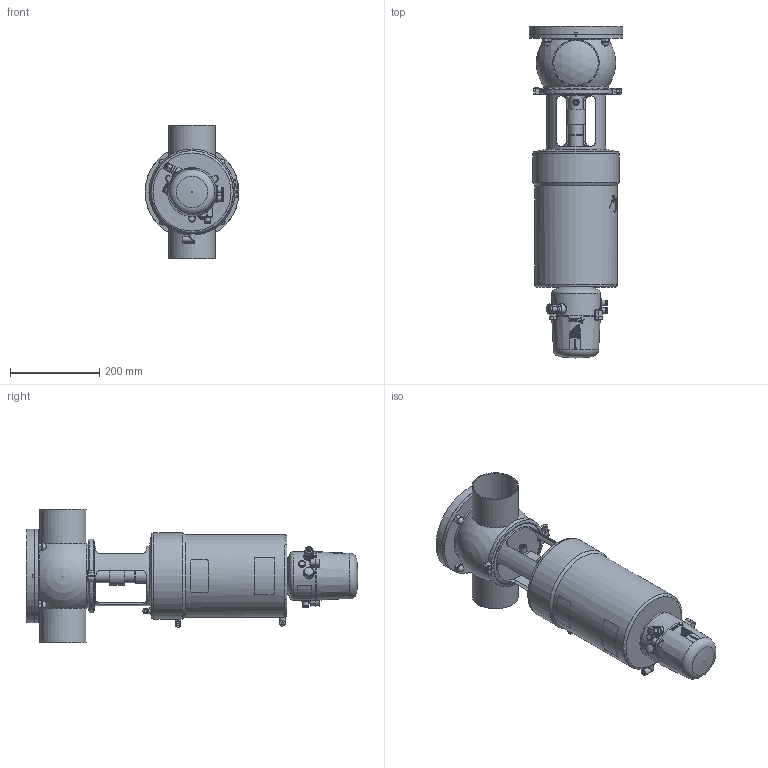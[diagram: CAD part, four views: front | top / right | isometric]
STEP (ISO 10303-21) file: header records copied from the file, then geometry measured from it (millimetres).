
FILE_DESCRIPTION (( 'STEP AP214' ), '1' );
FILE_NAME ('INNOVA T T W DIN 100 & C-TOP S_10.252.16.0008.STEP', '2024-08-20T12:22:01', ( '' ), ( '' ), 'SwSTEP 2.0', 'SolidWorks 2023', '' );
FILE_SCHEMA (( 'AUTOMOTIVE_DESIGN' ));
Length unit declared in the file: millimetre
Products named in the file (7): 10.252.15.0001_DIN 100; INNOVA T T W DIN 100 & C-TOP S_10.252.16.0008; 10.240.15.0007_DIN 100; 10.240.15.0001_DN 100; 10.248.15.0003_DIN 100 _ OD 4"; 10.250.15.0002_Type T T3; 10.426.15.0001_C-TOP S - 3 EV
Assembly tree (6 placements, depth 2):
  INNOVA T T W DIN 100 & C-TOP S_10.252.16.0008
    10.240.15.0007_DIN 100
    10.248.15.0003_DIN 100 _ OD 4"
    10.252.15.0001_DIN 100
    10.250.15.0002_Type T T3
    10.240.15.0001_DN 100
    10.426.15.0001_C-TOP S - 3 EV
Bounding box: 210 x 743.4 x 300 mm (x, y, z)
Volume: 13769033.6 mm3; surface area: 824446.5 mm2
Topology: 6 solids, 6 shells, 1204 faces, 2910 edges, 1937 vertices
Faces by surface type: plane 419, cylinder 382, cone 196, bspline 162, torus 33, sphere 12
Full cylindrical faces by diameter (mm): 0.371 x17, 0.512 x16, 0.658 x16, 0.795 x16, 0.94 x15, 1.098 x15, 1.241 x13, 1.382 x13, 1.523 x11, 1.669 x10, 2.201 x1, 4.2 x2, 5 x1, 5.5 x2, 6 x5, 6.15 x3, 8 x3, 10 x1, 10.5 x3, 11 x4, 12 x1, 12.5 x9, 13 x6, 13.5 x2, 14 x2, 16 x4, 17 x3, 20 x2, 22 x2, 30.5 x2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
Entity records: 61754 total; most frequent: CARTESIAN_POINT 29374, ORIENTED_EDGE 4906, DIRECTION 4039, EDGE_CURVE 2453, VERTEX_POINT 1745, EDGE_LOOP 1698, AXIS2_PLACEMENT_3D 1636, FACE_OUTER_BOUND 1436
